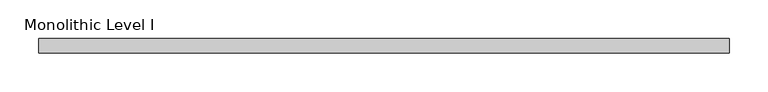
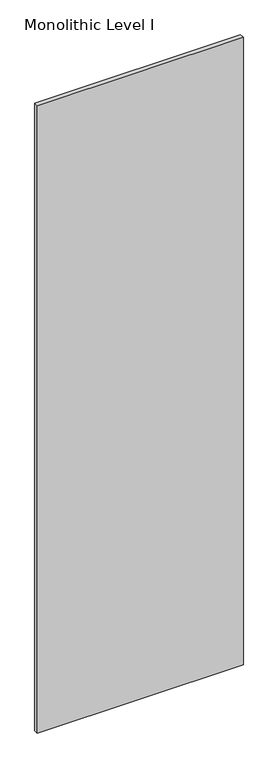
"""IFC4 building model written with IfcOpenShell, lengths in millimetres: proxy geometry, Panel-Fascia-Teknion-Altos-Standard : Monolithic Level I."""

from ifc_helpers import new_model, si_unit, frame, origin, place, context, project, spatial, polyline, outline, extrude, source, transform, mapped, element, save


def monolithic_level_i_0d422da3(model_context):
    return source(origin(), model_context, "Body", "SweptSolid", [
        extrude(outline(polyline([(447.0356344, -9.525), (-447.0356344, -9.525), (-447.0356344, 9.525), (447.0356344, 9.525), (447.0356344, -9.525)])), frame((0.0, 0.0, 3.175), z_axis=(0.0, 0.0, 1.0), x_axis=(1.0, 0.0, 0.0)), (0.0, 0.0, 1.0), 2877.693),
    ])


if __name__ == "__main__":
    model = new_model("IFC4")
    model_context = context("Model", 3, world=origin())
    ifc_project = project(units=[si_unit("LENGTHUNIT", "METRE", prefix="MILLI")], contexts=[model_context])
    site = spatial("IfcSite", under=ifc_project)
    building = spatial("IfcBuilding", under=site)
    placement = place(None, origin())
    monolithic_level_i_shape = monolithic_level_i_0d422da3(model_context)
    element("IfcBuildingElementProxy", 1, Name="Panel-Fascia-Teknion-Altos-Standard : Monolithic Level I", ObjectType="Panel-Fascia-Teknion-Altos-Standard : Monolithic Level I", at=placement, inside=building, context=model_context, shape_type="MappedRepresentation", body=[
        mapped(monolithic_level_i_shape, transform((0.0, 0.0, 0.0), x_axis=(1.0, 0.0, 0.0), y_axis=(0.0, 1.0, 0.0), z_axis=(0.0, 0.0, 1.0))),
    ])
    save(model, "model.ifc")
